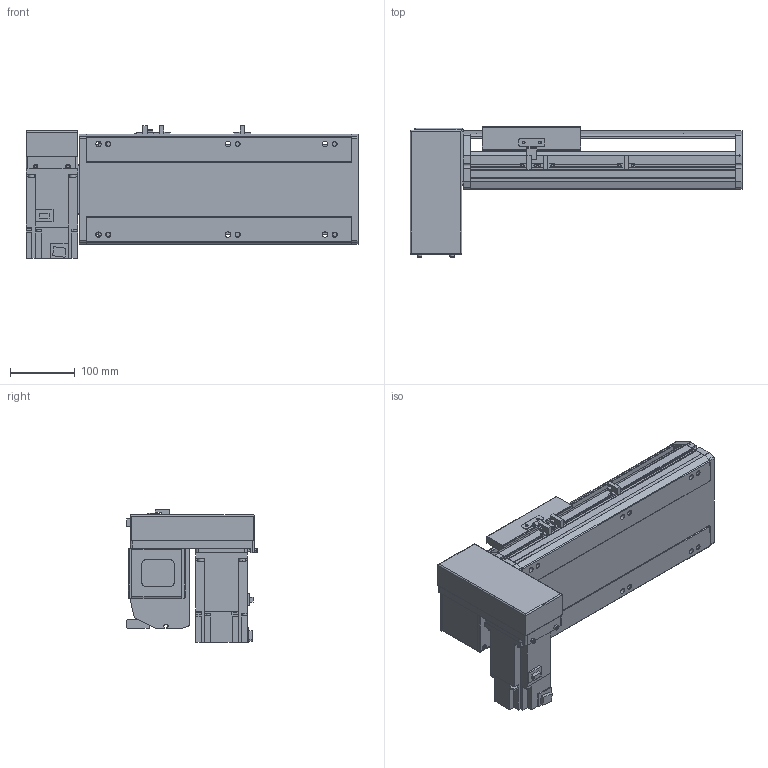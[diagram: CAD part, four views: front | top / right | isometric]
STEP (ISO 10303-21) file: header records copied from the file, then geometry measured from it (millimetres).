
FILE_DESCRIPTION(/* description */ ('STEP AP214'),/* implementation_level */ '2;1');
FILE_NAME(/* name */ 'PBS170-P40-S150-RD-T75-C1-N(0)',/* time_stamp */ '2022-06-08T07:33:59+02:00',/* author */ ('License CC BY-ND 4.0'),/* organization */ ('CADENAS'),/* preprocessor_version */ 'ST-DEVELOPER v18.102',/* originating_system */ 'PARTsolutions',/* authorisation */ ' ');
FILE_SCHEMA (('AUTOMOTIVE_DESIGN {1 0 10303 214 3 1 1}'));
Length unit declared in the file: millimetre
Products named in the file (7): PBS170-P40-S150-RD-T75-C1-N(0); PBS170_sensor; PBS170_plant; PBS170_sliser; T75-p1; PBS170T-RD_motors; PBS170-S150()_body
Assembly tree (8 placements, depth 2):
  PBS170-P40-S150-RD-T75-C1-N(0)
    PBS170_sensor  x3
    PBS170_plant
    PBS170_sliser
    T75-p1
    PBS170T-RD_motors
    PBS170-S150()_body
Bounding box: 513 x 201 x 205.3 mm (x, y, z)
Volume: 4934499.5 mm3; surface area: 709228.3 mm2
Topology: 8 solids, 8 shells, 1002 faces, 2675 edges, 1744 vertices
Faces by surface type: plane 657, cylinder 299, cone 36, sphere 8, torus 2
Full cylindrical faces by diameter (mm): 3.242 x4, 4 x2, 4.4 x4, 4.5 x6, 4.917 x4, 6 x9, 6.647 x14, 7 x2, 7.5 x4, 8 x8, 8.5 x6, 10 x4, 10.5 x6, 11 x2, 30 x2, 40 x1, 70 x1
Entity records: 28828 total; most frequent: CARTESIAN_POINT 5153, DIRECTION 4950, ORIENTED_EDGE 4728, EDGE_CURVE 2364, AXIS2_PLACEMENT_3D 1687, VERTEX_POINT 1610, LINE 1576, VECTOR 1576
